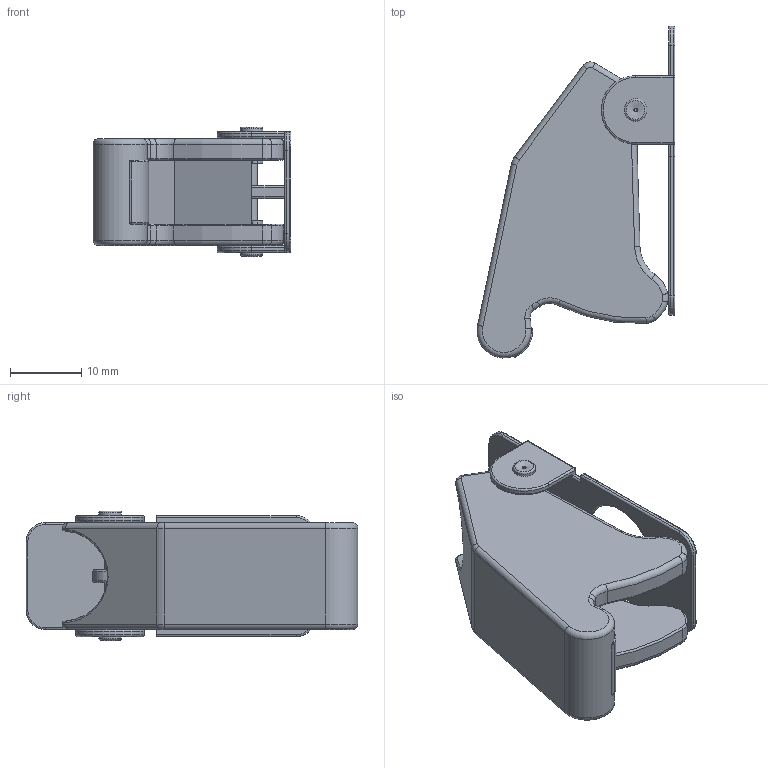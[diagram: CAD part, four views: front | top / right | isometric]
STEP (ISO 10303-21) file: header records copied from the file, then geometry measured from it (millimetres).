
FILE_DESCRIPTION(/* description */ ('STEP AP203'),/* implementation_level */ '2;1');
FILE_NAME(/* name */ 'SC-R-R.stp',/* time_stamp */ '2025-03-13T10:32:28-07:00',/* author */ ('tylerl'),/* organization */ ('Managed by Terraform'),/* preprocessor_version */ 'ST-DEVELOPER v20',/* originating_system */ 'Autodesk Inventor 2025',/* authorisation */ '');
FILE_SCHEMA (('AUTOMOTIVE_DESIGN { 1 0 10303 214 3 1 1 }'));
Length unit declared in the file: inch
Products named in the file (1): 1143T114_Guard for Toggle Switches
Bounding box: 27.8 x 46.59 x 18.22 mm (x, y, z)
Volume: 5870.1 mm3; surface area: 5926.5 mm2
Topology: 6 solids, 6 shells, 305 faces, 721 edges, 429 vertices
Faces by surface type: cylinder 139, plane 73, torus 68, bspline 18, sphere 7
Full cylindrical faces by diameter (mm): 1.587 x8, 1.6 x1, 1.778 x2, 3.175 x2
Entity records: 14652 total; most frequent: CARTESIAN_POINT 7436, DIRECTION 1636, ORIENTED_EDGE 1434, EDGE_CURVE 717, AXIS2_PLACEMENT_3D 669, VERTEX_POINT 429, CIRCLE 371, EDGE_LOOP 330
